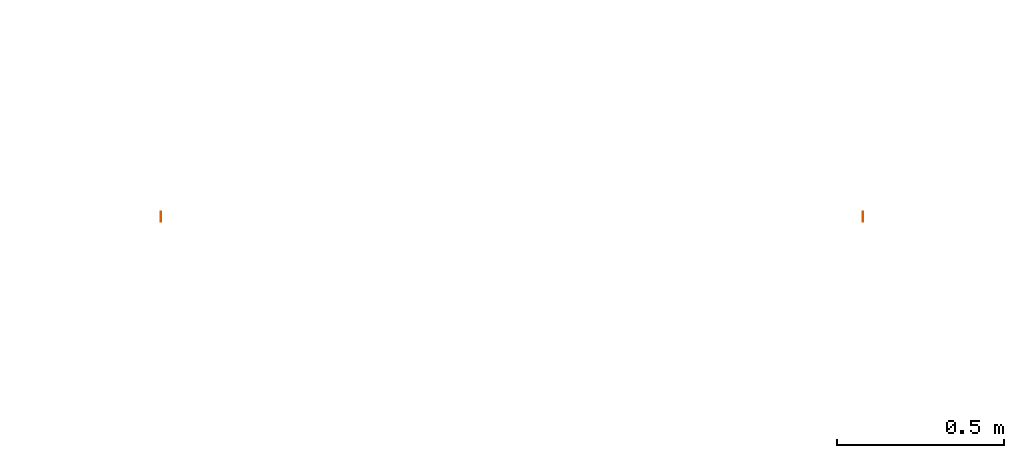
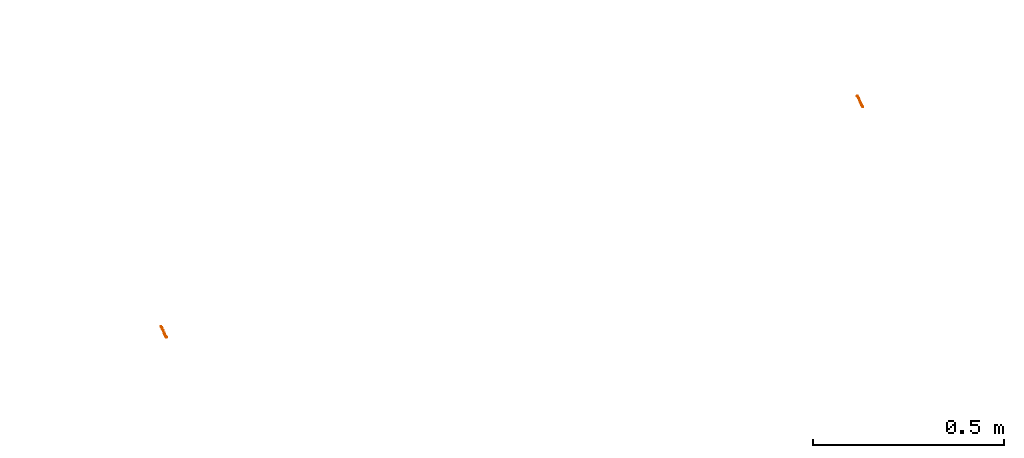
# One storey, part 192 of 197: 2 proxies.
"""IFC2X3 building model written with IfcOpenShell, lengths in metres."""

from ifc_helpers import new_model, entity, si_unit, converted_unit, direction, frame, origin, place, context, subcontext, project, spatial, faceted_brep, source, transform, mapped, material, type_object, type_shapes, element, save


model = new_model("IFC2X3")

# Units and contexts
model_context = context("Model", 3, precision=1e-05, world=origin(), true_north=direction((6.123031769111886e-17, 1.0)))
body_context = subcontext(model_context, "Body", "Model", "MODEL_VIEW")
ifc_project = project(units=[si_unit("LENGTHUNIT", "METRE"), converted_unit("PLANEANGLEUNIT", "DEGREE", entity("IfcPlaneAngleMeasure", 0.017453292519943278), si_unit("PLANEANGLEUNIT", "RADIAN"), dimensions=[0, 0, 0, 0, 0, 0, 0]), si_unit("AREAUNIT", "SQUARE_METRE")], contexts=[model_context])

# Site, building, storey
site_placement = place(None, origin())
site = spatial("IfcSite", under=ifc_project, at=site_placement, Name="Default", CompositionType="ELEMENT")
building_placement = place(site_placement, origin())
building = spatial("IfcBuilding", under=site, at=building_placement, CompositionType="ELEMENT")
storey_placement = place(building_placement, origin())
storey = spatial("IfcBuildingStorey", under=building, at=storey_placement, Name="Niveau 0", CompositionType="ELEMENT", Elevation=0.0)

# Proxies
ifc_material = material(Name="<Unnamed>")
building_element_proxy_type_1 = type_object("IfcBuildingElementProxyType", Name="Attente électrique-50e:FM CVC", PredefinedType="NOTDEFINED", material=ifc_material)
shared_shape_1 = source(origin(), body_context, "Body", "Brep", [
    faceted_brep([(0.00015679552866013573, 0.02468901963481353, 0.0071236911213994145), (-0.0008432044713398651, 0.024606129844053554, 0.00812024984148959), (0.00015679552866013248, 0.024523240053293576, 0.009116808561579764), (0.0011567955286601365, 0.024606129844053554, 0.008120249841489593), (0.0010682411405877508, 0.020307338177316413, 0.007781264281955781), (0.0001567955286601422, 0.020902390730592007, 0.005938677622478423), (0.0011263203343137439, 0.017575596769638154, 0.006150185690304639), (0.0001567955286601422, 0.015326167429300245, 0.00419361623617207), (0.00015679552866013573, 0.020007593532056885, 0.005658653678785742), (0.00015679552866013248, 0.014326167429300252, 0.005925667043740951), (0.0009522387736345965, 0.011698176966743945, 0.0036743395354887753), (0.0009420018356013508, 0.015917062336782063, 0.006344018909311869), (0.00015679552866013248, 0.010395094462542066, 0.0023079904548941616), (0.00015679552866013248, 0.009383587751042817, 0.0013771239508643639), (0.00015679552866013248, 0.006464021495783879, -0.00130968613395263), (0.0006567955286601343, 0.006874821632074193, -0.0015947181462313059), (0.0011567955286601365, 0.007285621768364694, -0.0018797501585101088), (0.0001567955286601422, 0.008107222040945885, -0.002449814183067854), (0.0010477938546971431, 0.01190066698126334, 0.002476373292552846), (0.0001567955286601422, 0.011716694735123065, 0.000871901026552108), (0.00015679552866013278, 0.020736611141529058, 0.007931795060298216), (0.00015679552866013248, 0.01942470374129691, 0.0075212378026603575), (-0.000613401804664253, 0.017791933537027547, 0.005814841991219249), (-0.0008432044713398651, 0.007285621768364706, -0.0018797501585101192), (-0.0006561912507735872, 0.013063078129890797, 0.003217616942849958), (-0.0007811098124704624, 0.017711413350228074, 0.006845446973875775), (-0.000757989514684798, 0.011606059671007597, 0.0033430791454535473), (0.00015679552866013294, -0.006217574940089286, -0.0072232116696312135), (-0.0008432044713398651, -0.006308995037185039, -0.00821902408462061), (-0.00022603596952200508, -0.006365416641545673, -0.00883360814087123), (0.00015679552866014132, -0.006400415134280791, -0.009214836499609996), (0.0011567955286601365, -0.006308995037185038, -0.008219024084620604), (0.0005396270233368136, -0.006252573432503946, -0.0076044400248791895), (0.0001567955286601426, 0.00342572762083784, -0.0063951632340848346), (0.0008639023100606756, 0.004493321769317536, -0.005806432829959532), (0.0009254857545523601, 0.0019625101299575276, -0.007298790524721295), (0.00015679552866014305, -0.002505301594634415, -0.008536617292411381), (0.00015679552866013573, 0.00493736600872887, -0.005121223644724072), (0.00015679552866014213, 0.005083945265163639, -0.0049976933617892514), (0.00015679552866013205, -0.002322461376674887, -0.006544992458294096), (0.00015679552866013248, -0.002647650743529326, -0.006601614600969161), (0.0009203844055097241, 0.004301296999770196, -0.0042243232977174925), (0.00015679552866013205, 0.0036931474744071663, -0.003644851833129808), (0.00015679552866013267, 0.0034407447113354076, -0.0038575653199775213), (0.00015679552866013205, 0.0009222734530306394, -0.005980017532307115), (0.0010089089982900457, -0.0014622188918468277, -0.008405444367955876), (0.001064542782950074, -0.00036395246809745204, -0.0071166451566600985), (0.0011567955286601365, 0.003257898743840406, -0.0058162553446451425), (0.00015679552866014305, 0.0017675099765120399, -0.007792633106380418), (0.001078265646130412, -0.0034805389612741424, -0.007818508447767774), (0.0011516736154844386, 0.005514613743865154, -0.004127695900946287), (-0.0006872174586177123, 0.004983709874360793, -0.0037543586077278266), (-0.0008432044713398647, 0.0028123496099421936, -0.006099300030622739), (-0.0006218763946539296, -0.0034380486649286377, -0.008835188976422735), (-0.0008173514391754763, -0.003105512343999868, -0.007939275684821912), (-0.0007245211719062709, -0.0005251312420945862, -0.008103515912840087), (-0.000725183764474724, 0.005518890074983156, -0.004634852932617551), (-0.0006856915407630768, -0.0001638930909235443, -0.006921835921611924)], [[[0, 1, 2, 3]], [[2, 4, 3]], [[3, 5, 0]], [[6, 5, 3]], [[6, 7, 8, 5]], [[9, 10, 11]], [[10, 9, 12, 13]], [[13, 14, 15, 16]], [[16, 10, 13]], [[17, 18, 16]], [[18, 17, 19, 7]], [[11, 10, 18]], [[6, 18, 7]], [[11, 18, 6]], [[10, 16, 18]], [[4, 6, 3]], [[4, 11, 6]], [[4, 2, 20, 21]], [[21, 9, 11]], [[21, 11, 4]], [[22, 1, 0]], [[23, 24, 19]], [[25, 9, 21, 20]], [[25, 20, 1]], [[7, 24, 22]], [[25, 24, 26]], [[24, 7, 19]], [[24, 23, 26]], [[23, 12, 26]], [[20, 2, 1]], [[25, 22, 24]], [[9, 25, 26]], [[17, 23, 19]], [[1, 22, 25]], [[22, 0, 5, 8, 7]], [[23, 14, 13, 12]], [[12, 9, 26]], [[27, 28, 29, 30, 31, 32]], [[33, 34, 35]], [[31, 30, 36]], [[34, 33, 37, 38]], [[32, 39, 40, 27]], [[41, 14, 42, 43, 44]], [[45, 31, 36]], [[44, 46, 47]], [[39, 46, 44]], [[48, 33, 35]], [[15, 14, 41]], [[35, 46, 45]], [[49, 32, 31]], [[45, 46, 49]], [[16, 50, 17]], [[32, 49, 39]], [[39, 49, 46]], [[31, 45, 49]], [[48, 45, 36]], [[47, 35, 34]], [[50, 38, 17]], [[50, 47, 34]], [[46, 35, 47]], [[45, 48, 35]], [[50, 34, 38]], [[41, 47, 50]], [[50, 16, 15]], [[47, 41, 44]], [[15, 41, 50]], [[43, 51, 52]], [[51, 14, 23]], [[43, 52, 44]], [[53, 54, 55]], [[56, 17, 38, 37, 33, 48]], [[54, 53, 28]], [[48, 55, 52]], [[52, 55, 57]], [[56, 52, 51]], [[52, 57, 44]], [[54, 57, 55]], [[48, 36, 55]], [[40, 57, 54]], [[36, 30, 29]], [[54, 27, 40]], [[57, 40, 39, 44]], [[54, 28, 27]], [[53, 55, 36]], [[36, 29, 53]], [[28, 53, 29]], [[51, 43, 42, 14]], [[52, 56, 48]], [[56, 51, 23]], [[17, 56, 23]]]),
])
type_shapes(building_element_proxy_type_1, [shared_shape_1])
proxy_1_placement = place(storey_placement, frame((-396.60870462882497, 86.4535835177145, 0.0)))
element("IfcBuildingElementProxy", 1, at=proxy_1_placement, inside=storey, type_object=building_element_proxy_type_1, material=ifc_material, Name="Attente électrique-50e:FM CVC", ObjectType="Attente électrique-50e:FM CVC", context=body_context, shape_type="MappedRepresentation", body=[
    mapped(shared_shape_1, transform((0.0, 0.0, 0.0), scale=1.0)),
])
building_element_proxy_type_2 = type_object("IfcBuildingElementProxyType", Name="Attente électrique-50e:FM ELEC", PredefinedType="NOTDEFINED", material=ifc_material)
shared_shape_2 = source(origin(), body_context, "Body", "Brep", [
    faceted_brep([(0.00015679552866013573, 0.02468901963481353, 0.0071236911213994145), (-0.0008432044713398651, 0.024606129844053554, 0.00812024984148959), (0.00015679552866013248, 0.024523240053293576, 0.009116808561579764), (0.0011567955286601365, 0.024606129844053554, 0.008120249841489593), (0.0010682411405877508, 0.020307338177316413, 0.007781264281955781), (0.0001567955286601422, 0.020902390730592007, 0.005938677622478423), (0.0011263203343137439, 0.017575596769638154, 0.006150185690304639), (0.0001567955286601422, 0.015326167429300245, 0.00419361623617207), (0.00015679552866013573, 0.020007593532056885, 0.005658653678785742), (0.00015679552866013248, 0.014326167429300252, 0.005925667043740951), (0.0009522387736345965, 0.011698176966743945, 0.0036743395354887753), (0.0009420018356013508, 0.015917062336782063, 0.006344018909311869), (0.00015679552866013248, 0.010395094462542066, 0.0023079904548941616), (0.00015679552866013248, 0.009383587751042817, 0.0013771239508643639), (0.00015679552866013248, 0.006464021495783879, -0.00130968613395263), (0.0006567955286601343, 0.006874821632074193, -0.0015947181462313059), (0.0011567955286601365, 0.007285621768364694, -0.0018797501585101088), (0.0001567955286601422, 0.008107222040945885, -0.002449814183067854), (0.0010477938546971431, 0.01190066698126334, 0.002476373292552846), (0.0001567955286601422, 0.011716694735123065, 0.000871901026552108), (0.00015679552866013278, 0.020736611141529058, 0.007931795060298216), (0.00015679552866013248, 0.01942470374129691, 0.0075212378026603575), (-0.000613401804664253, 0.017791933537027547, 0.005814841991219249), (-0.0008432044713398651, 0.007285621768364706, -0.0018797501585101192), (-0.0006561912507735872, 0.013063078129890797, 0.003217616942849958), (-0.0007811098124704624, 0.017711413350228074, 0.006845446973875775), (-0.000757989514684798, 0.011606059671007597, 0.0033430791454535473), (0.00015679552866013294, -0.006217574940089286, -0.0072232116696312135), (-0.0008432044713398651, -0.006308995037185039, -0.00821902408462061), (-0.00022603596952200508, -0.006365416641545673, -0.00883360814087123), (0.00015679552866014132, -0.006400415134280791, -0.009214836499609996), (0.0011567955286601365, -0.006308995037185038, -0.008219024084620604), (0.0005396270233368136, -0.006252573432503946, -0.0076044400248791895), (0.0001567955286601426, 0.00342572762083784, -0.0063951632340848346), (0.0008639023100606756, 0.004493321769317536, -0.005806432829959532), (0.0009254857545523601, 0.0019625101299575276, -0.007298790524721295), (0.00015679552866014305, -0.002505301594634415, -0.008536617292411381), (0.00015679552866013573, 0.00493736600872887, -0.005121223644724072), (0.00015679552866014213, 0.005083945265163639, -0.0049976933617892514), (0.00015679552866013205, -0.002322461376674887, -0.006544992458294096), (0.00015679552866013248, -0.002647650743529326, -0.006601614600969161), (0.0009203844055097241, 0.004301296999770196, -0.0042243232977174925), (0.00015679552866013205, 0.0036931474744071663, -0.003644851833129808), (0.00015679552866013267, 0.0034407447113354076, -0.0038575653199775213), (0.00015679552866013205, 0.0009222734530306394, -0.005980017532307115), (0.0010089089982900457, -0.0014622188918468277, -0.008405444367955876), (0.001064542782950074, -0.00036395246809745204, -0.0071166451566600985), (0.0011567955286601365, 0.003257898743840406, -0.0058162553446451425), (0.00015679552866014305, 0.0017675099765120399, -0.007792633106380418), (0.001078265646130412, -0.0034805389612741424, -0.007818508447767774), (0.0011516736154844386, 0.005514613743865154, -0.004127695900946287), (-0.0006872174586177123, 0.004983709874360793, -0.0037543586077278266), (-0.0008432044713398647, 0.0028123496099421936, -0.006099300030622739), (-0.0006218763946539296, -0.0034380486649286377, -0.008835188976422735), (-0.0008173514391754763, -0.003105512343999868, -0.007939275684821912), (-0.0007245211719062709, -0.0005251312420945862, -0.008103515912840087), (-0.000725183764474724, 0.005518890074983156, -0.004634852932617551), (-0.0006856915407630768, -0.0001638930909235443, -0.006921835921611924)], [[[0, 1, 2, 3]], [[2, 4, 3]], [[3, 5, 0]], [[6, 5, 3]], [[6, 7, 8, 5]], [[9, 10, 11]], [[10, 9, 12, 13]], [[13, 14, 15, 16]], [[16, 10, 13]], [[17, 18, 16]], [[18, 17, 19, 7]], [[11, 10, 18]], [[6, 18, 7]], [[11, 18, 6]], [[10, 16, 18]], [[4, 6, 3]], [[4, 11, 6]], [[4, 2, 20, 21]], [[21, 9, 11]], [[21, 11, 4]], [[22, 1, 0]], [[23, 24, 19]], [[25, 9, 21, 20]], [[25, 20, 1]], [[7, 24, 22]], [[25, 24, 26]], [[24, 7, 19]], [[24, 23, 26]], [[23, 12, 26]], [[20, 2, 1]], [[25, 22, 24]], [[9, 25, 26]], [[17, 23, 19]], [[1, 22, 25]], [[22, 0, 5, 8, 7]], [[23, 14, 13, 12]], [[12, 9, 26]], [[27, 28, 29, 30, 31, 32]], [[33, 34, 35]], [[31, 30, 36]], [[34, 33, 37, 38]], [[32, 39, 40, 27]], [[41, 14, 42, 43, 44]], [[45, 31, 36]], [[44, 46, 47]], [[39, 46, 44]], [[48, 33, 35]], [[15, 14, 41]], [[35, 46, 45]], [[49, 32, 31]], [[45, 46, 49]], [[16, 50, 17]], [[32, 49, 39]], [[39, 49, 46]], [[31, 45, 49]], [[48, 45, 36]], [[47, 35, 34]], [[50, 38, 17]], [[50, 47, 34]], [[46, 35, 47]], [[45, 48, 35]], [[50, 34, 38]], [[41, 47, 50]], [[50, 16, 15]], [[47, 41, 44]], [[15, 41, 50]], [[43, 51, 52]], [[51, 14, 23]], [[43, 52, 44]], [[53, 54, 55]], [[56, 17, 38, 37, 33, 48]], [[54, 53, 28]], [[48, 55, 52]], [[52, 55, 57]], [[56, 52, 51]], [[52, 57, 44]], [[54, 57, 55]], [[48, 36, 55]], [[40, 57, 54]], [[36, 30, 29]], [[54, 27, 40]], [[57, 40, 39, 44]], [[54, 28, 27]], [[53, 55, 36]], [[36, 29, 53]], [[28, 53, 29]], [[51, 43, 42, 14]], [[52, 56, 48]], [[56, 51, 23]], [[17, 56, 23]]]),
])
type_shapes(building_element_proxy_type_2, [shared_shape_2])
proxy_2_placement = place(storey_placement, frame((-394.50570462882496, 86.4535835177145, 0.0)))
element("IfcBuildingElementProxy", 2, at=proxy_2_placement, inside=storey, type_object=building_element_proxy_type_2, material=ifc_material, Name="Attente électrique-50e:FM ELEC", ObjectType="Attente électrique-50e:FM ELEC", context=body_context, shape_type="MappedRepresentation", body=[
    mapped(shared_shape_2, transform((0.0, 0.0, 0.0), scale=1.0)),
])

save(model, "model.ifc")
